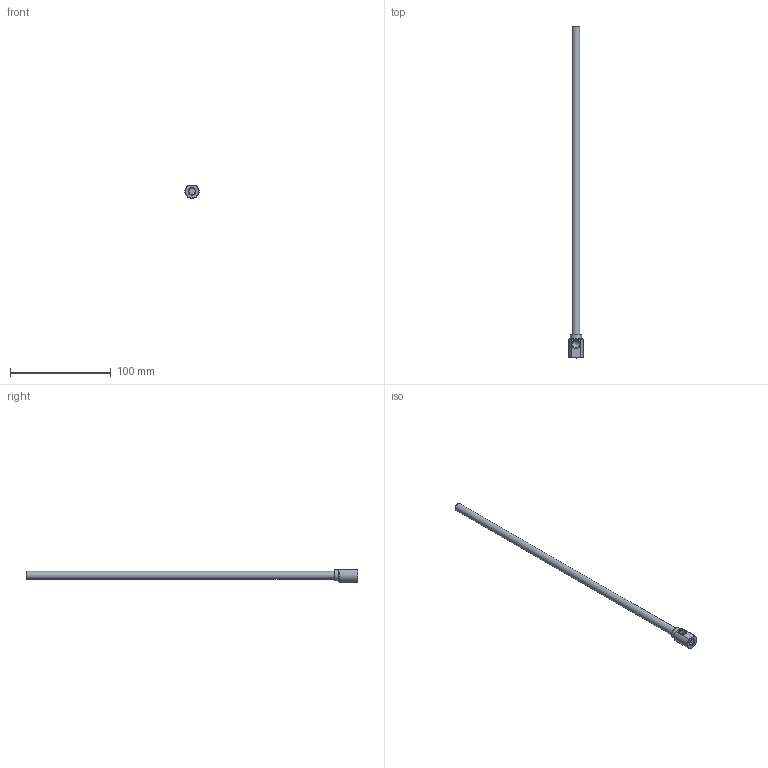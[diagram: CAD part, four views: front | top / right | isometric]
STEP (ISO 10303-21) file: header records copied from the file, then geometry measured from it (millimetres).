
FILE_DESCRIPTION(/* description */ (''),/* implementation_level */ '2;1');
FILE_NAME(/* name */ 'C:/Users/drich/Desktop/EKL16 X 13 v2.step',/* time_stamp */ '2019-11-18T14:37:20-06:00',/* author */ (''),/* organization */ (''),/* preprocessor_version */ 'ST-DEVELOPER v18',/* originating_system */ 'Autodesk Translation Framework v8.12.0.6',/* authorisation */ '');
FILE_SCHEMA (('AUTOMOTIVE_DESIGN { 1 0 10303 214 3 1 1 }'));
Length unit declared in the file: inch
Products named in the file (2): EKL16 X 13; EKL16 X 13_1
Assembly tree (1 placements, depth 2):
  EKL16 X 13
    EKL16 X 13_1
Bounding box: 13.97 x 330.2 x 12.7 mm (x, y, z)
Volume: 11774.3 mm3; surface area: 13818.5 mm2
Topology: 1 solids, 1 shells, 29 faces, 80 edges, 56 vertices
Faces by surface type: plane 15, cone 8, cylinder 6
Full cylindrical faces by diameter (mm): 4.75 x1, 6.566 x1, 7.62 x1, 7.828 x1, 11.1 x1
Entity records: 1016 total; most frequent: CARTESIAN_POINT 241, ORIENTED_EDGE 158, DIRECTION 148, EDGE_CURVE 79, AXIS2_PLACEMENT_3D 59, VERTEX_POINT 56, EDGE_LOOP 35, LINE 30
